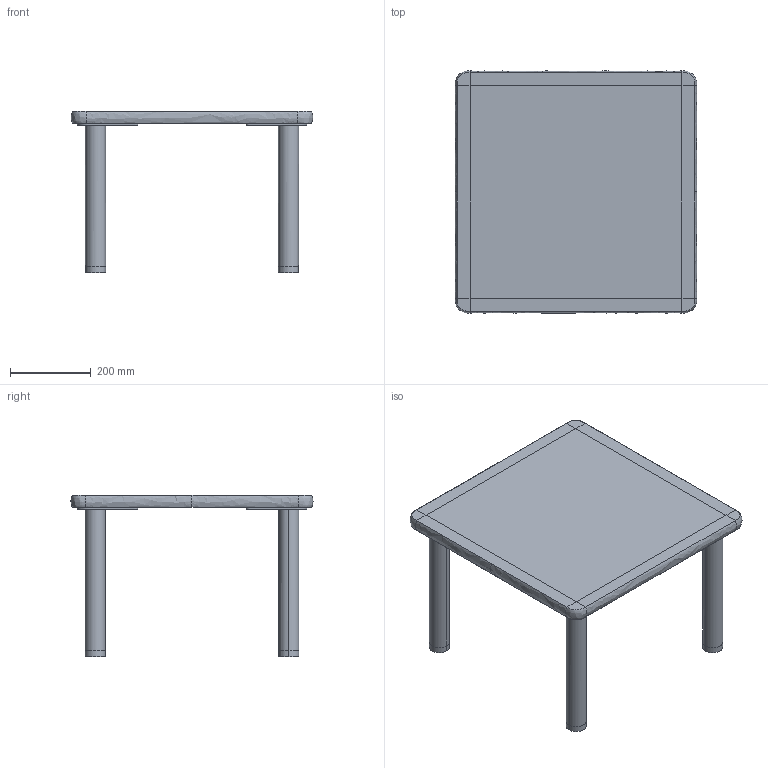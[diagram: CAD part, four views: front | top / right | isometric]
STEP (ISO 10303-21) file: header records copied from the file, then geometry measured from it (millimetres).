
FILE_DESCRIPTION(/* description */ (''),/* implementation_level */ '2;1');
FILE_NAME(/* name */ 'kinoshita_baobabland_kh-600-600',/* time_stamp */ '2025-04-18T20:00:33+09:00',/* author */ (''),/* organization */ (''),/* preprocessor_version */ 'ST-DEVELOPER v16.5',/* originating_system */ '',/* authorisation */ '');
FILE_SCHEMA (('AUTOMOTIVE_DESIGN'));
Length unit declared in the file: millimetre
Products named in the file (1): Document
Bounding box: 599 x 600 x 400 mm (x, y, z)
Volume: 13748581.8 mm3; surface area: 1112113.9 mm2
Topology: 5 solids, 5 shells, 132 faces, 336 edges, 210 vertices
Faces by surface type: bspline 106, plane 26
Entity records: 10395 total; most frequent: CARTESIAN_POINT 8392, ORIENTED_EDGE 656, EDGE_CURVE 328, VERTEX_POINT 210, EDGE_LOOP 184, B_SPLINE_CURVE_WITH_KNOTS 160, ADVANCED_FACE 132, FACE_OUTER_BOUND 132
